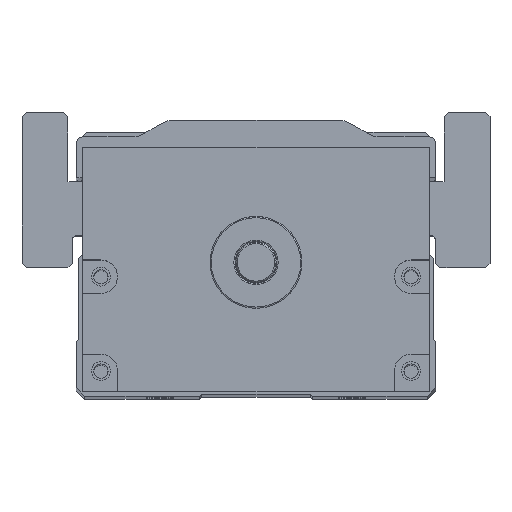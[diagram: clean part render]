
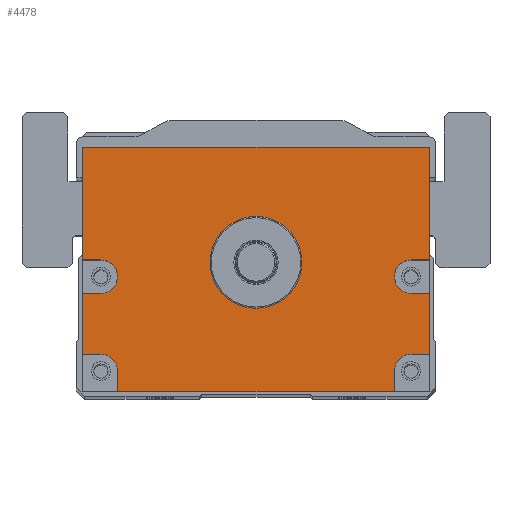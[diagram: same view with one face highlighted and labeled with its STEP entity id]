
A CAD part, top view. The second image highlights one B-rep face of the part: STEP entity #4478.
In plain terms, the highlighted planar face has unit normal (0, 0, 1).
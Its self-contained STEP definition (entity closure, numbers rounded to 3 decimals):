
#3822=FACE_BOUND('',#6132,.T.);
#3823=FACE_BOUND('',#6133,.T.);
#4478=ADVANCED_FACE('',(#3822,#3823),#4977,.T.);
#4977=PLANE('',#15189);
#6132=EDGE_LOOP('',(#10045,#10046,#10047,#10048,#10049,#10050,#10051,#10052,
#10053,#10054,#10055,#10056,#10057,#10058,#10059,#10060,#10061,#10062));
#6133=EDGE_LOOP('',(#10063));
#7042=LINE('',#21918,#7845);
#7044=LINE('',#21926,#7847);
#7045=LINE('',#21929,#7848);
#7046=LINE('',#21931,#7849);
#7047=LINE('',#21935,#7850);
#7048=LINE('',#21937,#7851);
#7049=LINE('',#21938,#7852);
#7050=LINE('',#21940,#7853);
#7051=LINE('',#21944,#7854);
#7052=LINE('',#21946,#7855);
#7053=LINE('',#21948,#7856);
#7054=LINE('',#21952,#7857);
#7055=LINE('',#21954,#7858);
#7056=LINE('',#21956,#7859);
#7845=VECTOR('',#17480,1.);
#7847=VECTOR('',#17488,1.);
#7848=VECTOR('',#17489,1.);
#7849=VECTOR('',#17490,1.);
#7850=VECTOR('',#17493,1.);
#7851=VECTOR('',#17494,1.);
#7852=VECTOR('',#17495,1.);
#7853=VECTOR('',#17496,1.);
#7854=VECTOR('',#17499,1.);
#7855=VECTOR('',#17500,1.);
#7856=VECTOR('',#17501,1.);
#7857=VECTOR('',#17504,1.);
#7858=VECTOR('',#17505,1.);
#7859=VECTOR('',#17506,1.);
#10045=ORIENTED_EDGE('',*,*,#13408,.F.);
#10046=ORIENTED_EDGE('',*,*,#13409,.T.);
#10047=ORIENTED_EDGE('',*,*,#13410,.F.);
#10048=ORIENTED_EDGE('',*,*,#13411,.F.);
#10049=ORIENTED_EDGE('',*,*,#13412,.F.);
#10050=ORIENTED_EDGE('',*,*,#13413,.T.);
#10051=ORIENTED_EDGE('',*,*,#13404,.T.);
#10052=ORIENTED_EDGE('',*,*,#13414,.T.);
#10053=ORIENTED_EDGE('',*,*,#13415,.F.);
#10054=ORIENTED_EDGE('',*,*,#13416,.F.);
#10055=ORIENTED_EDGE('',*,*,#13417,.F.);
#10056=ORIENTED_EDGE('',*,*,#13418,.T.);
#10057=ORIENTED_EDGE('',*,*,#13419,.F.);
#10058=ORIENTED_EDGE('',*,*,#13420,.F.);
#10059=ORIENTED_EDGE('',*,*,#13421,.F.);
#10060=ORIENTED_EDGE('',*,*,#13422,.T.);
#10061=ORIENTED_EDGE('',*,*,#13423,.F.);
#10062=ORIENTED_EDGE('',*,*,#13424,.F.);
#10063=ORIENTED_EDGE('',*,*,#13390,.T.);
#11984=VERTEX_POINT('',#21889);
#11997=VERTEX_POINT('',#21917);
#11998=VERTEX_POINT('',#21919);
#12001=VERTEX_POINT('',#21927);
#12002=VERTEX_POINT('',#21928);
#12003=VERTEX_POINT('',#21930);
#12004=VERTEX_POINT('',#21932);
#12005=VERTEX_POINT('',#21934);
#12006=VERTEX_POINT('',#21936);
#12007=VERTEX_POINT('',#21939);
#12008=VERTEX_POINT('',#21941);
#12009=VERTEX_POINT('',#21943);
#12010=VERTEX_POINT('',#21945);
#12011=VERTEX_POINT('',#21947);
#12012=VERTEX_POINT('',#21949);
#12013=VERTEX_POINT('',#21951);
#12014=VERTEX_POINT('',#21953);
#12015=VERTEX_POINT('',#21955);
#12016=VERTEX_POINT('',#21957);
#13390=EDGE_CURVE('',#11984,#11984,#14309,.T.);
#13404=EDGE_CURVE('',#11998,#11997,#7042,.T.);
#13408=EDGE_CURVE('',#12001,#12002,#7044,.T.);
#13409=EDGE_CURVE('',#12001,#12003,#7045,.T.);
#13410=EDGE_CURVE('',#12004,#12003,#7046,.T.);
#13411=EDGE_CURVE('',#12005,#12004,#14320,.T.);
#13412=EDGE_CURVE('',#12006,#12005,#7047,.T.);
#13413=EDGE_CURVE('',#12006,#11998,#7048,.T.);
#13414=EDGE_CURVE('',#11997,#12007,#7049,.T.);
#13415=EDGE_CURVE('',#12008,#12007,#7050,.T.);
#13416=EDGE_CURVE('',#12009,#12008,#14321,.T.);
#13417=EDGE_CURVE('',#12010,#12009,#7051,.T.);
#13418=EDGE_CURVE('',#12010,#12011,#7052,.T.);
#13419=EDGE_CURVE('',#12012,#12011,#7053,.T.);
#13420=EDGE_CURVE('',#12013,#12012,#14322,.T.);
#13421=EDGE_CURVE('',#12014,#12013,#7054,.T.);
#13422=EDGE_CURVE('',#12014,#12015,#7055,.T.);
#13423=EDGE_CURVE('',#12016,#12015,#7056,.T.);
#13424=EDGE_CURVE('',#12002,#12016,#14323,.T.);
#14309=CIRCLE('',#15171,11.);
#14320=CIRCLE('',#15185,4.);
#14321=CIRCLE('',#15186,4.);
#14322=CIRCLE('',#15187,4.);
#14323=CIRCLE('',#15188,4.);
#15171=AXIS2_PLACEMENT_3D('',#21888,#17453,#17454);
#15185=AXIS2_PLACEMENT_3D('',#21933,#17491,#17492);
#15186=AXIS2_PLACEMENT_3D('',#21942,#17497,#17498);
#15187=AXIS2_PLACEMENT_3D('',#21950,#17502,#17503);
#15188=AXIS2_PLACEMENT_3D('',#21958,#17507,#17508);
#15189=AXIS2_PLACEMENT_3D('',#21959,#17509,#17510);
#17453=DIRECTION('',(0.,0.,-1.));
#17454=DIRECTION('',(1.,0.,0.));
#17480=DIRECTION('',(-1.,0.,0.));
#17488=DIRECTION('',(-1.,0.,0.));
#17489=DIRECTION('',(0.,1.,0.));
#17490=DIRECTION('',(1.,0.,0.));
#17491=DIRECTION('',(0.,0.,1.));
#17492=DIRECTION('',(1.,0.,0.));
#17493=DIRECTION('',(-1.,0.,0.));
#17494=DIRECTION('',(0.,1.,0.));
#17495=DIRECTION('',(0.,-1.,0.));
#17496=DIRECTION('',(-1.,0.,0.));
#17497=DIRECTION('',(0.,0.,1.));
#17498=DIRECTION('',(1.,0.,0.));
#17499=DIRECTION('',(1.,0.,0.));
#17500=DIRECTION('',(0.,-1.,0.));
#17501=DIRECTION('',(-1.,0.,0.));
#17502=DIRECTION('',(0.,0.,1.));
#17503=DIRECTION('',(1.,0.,0.));
#17504=DIRECTION('',(0.,1.,0.));
#17505=DIRECTION('',(1.,0.,0.));
#17506=DIRECTION('',(0.,-1.,0.));
#17507=DIRECTION('',(0.,0.,1.));
#17508=DIRECTION('',(1.,0.,0.));
#17509=DIRECTION('',(0.,0.,1.));
#17510=DIRECTION('',(1.,0.,0.));
#21888=CARTESIAN_POINT('',(600.,0.,282.5));
#21889=CARTESIAN_POINT('',(611.,0.,282.5));
#21917=CARTESIAN_POINT('',(558.5,27.5,282.5));
#21918=CARTESIAN_POINT('',(641.5,27.5,282.5));
#21919=CARTESIAN_POINT('',(641.5,27.5,282.5));
#21926=CARTESIAN_POINT('',(641.5,-22.,282.5));
#21927=CARTESIAN_POINT('',(641.5,-22.,282.5));
#21928=CARTESIAN_POINT('',(637.115,-22.,282.5));
#21929=CARTESIAN_POINT('',(641.5,-31.,282.5));
#21930=CARTESIAN_POINT('',(641.5,-7.431,282.5));
#21931=CARTESIAN_POINT('',(641.5,-7.431,282.5));
#21932=CARTESIAN_POINT('',(637.115,-7.431,282.5));
#21933=CARTESIAN_POINT('',(637.115,-3.431,282.5));
#21934=CARTESIAN_POINT('',(637.115,0.569,282.5));
#21935=CARTESIAN_POINT('',(641.5,0.569,282.5));
#21936=CARTESIAN_POINT('',(641.5,0.569,282.5));
#21937=CARTESIAN_POINT('',(641.5,-31.,282.5));
#21938=CARTESIAN_POINT('',(558.5,27.5,282.5));
#21939=CARTESIAN_POINT('',(558.5,0.569,282.5));
#21940=CARTESIAN_POINT('',(641.5,0.569,282.5));
#21941=CARTESIAN_POINT('',(562.885,0.569,282.5));
#21942=CARTESIAN_POINT('',(562.885,-3.431,282.5));
#21943=CARTESIAN_POINT('',(562.885,-7.431,282.5));
#21944=CARTESIAN_POINT('',(641.5,-7.431,282.5));
#21945=CARTESIAN_POINT('',(558.5,-7.431,282.5));
#21946=CARTESIAN_POINT('',(558.5,27.5,282.5));
#21947=CARTESIAN_POINT('',(558.5,-22.,282.5));
#21948=CARTESIAN_POINT('',(641.5,-22.,282.5));
#21949=CARTESIAN_POINT('',(562.885,-22.,282.5));
#21950=CARTESIAN_POINT('',(562.885,-26.,282.5));
#21951=CARTESIAN_POINT('',(566.885,-26.,282.5));
#21952=CARTESIAN_POINT('',(566.885,-31.,282.5));
#21953=CARTESIAN_POINT('',(566.885,-31.,282.5));
#21954=CARTESIAN_POINT('',(558.5,-31.,282.5));
#21955=CARTESIAN_POINT('',(633.115,-31.,282.5));
#21956=CARTESIAN_POINT('',(633.115,-31.,282.5));
#21957=CARTESIAN_POINT('',(633.115,-26.,282.5));
#21958=CARTESIAN_POINT('',(637.115,-26.,282.5));
#21959=CARTESIAN_POINT('',(641.5,-31.,282.5));
